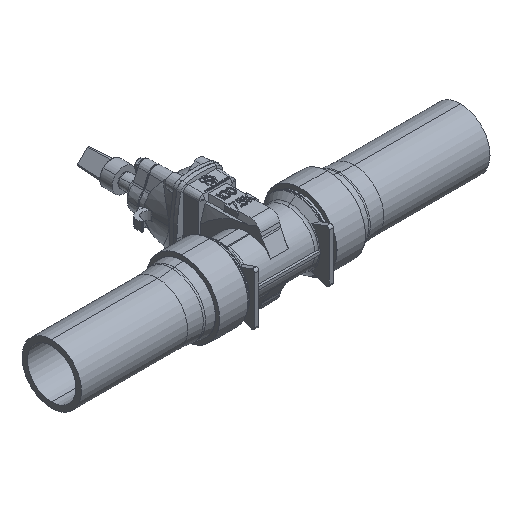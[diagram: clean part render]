
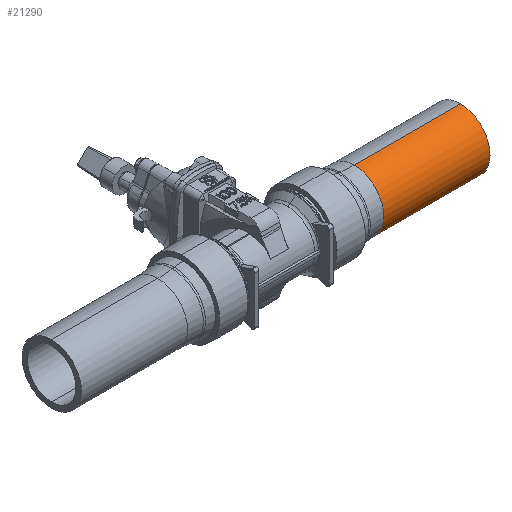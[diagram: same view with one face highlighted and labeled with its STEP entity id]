
A CAD part, isometric view. The second image highlights one B-rep face of the part: STEP entity #21290.
In plain terms, the highlighted cylindrical face has radius 62.5 mm (diameter 125 mm), a partial arc.
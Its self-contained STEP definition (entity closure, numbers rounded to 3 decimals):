
#515 = ORIENTED_EDGE ( 'NONE', *, *, #19718, .F. ) ;
#922 = DIRECTION ( 'NONE',  ( 1., 0., 0. ) ) ;
#2100 = CARTESIAN_POINT ( 'NONE',  ( 430., 0., -62.5 ) ) ;
#2733 = DIRECTION ( 'NONE',  ( -1., 0., 0. ) ) ;
#3325 = VECTOR ( 'NONE', #2733, 1000. ) ;
#3963 = DIRECTION ( 'NONE',  ( 0., 0., 1. ) ) ;
#4162 = CARTESIAN_POINT ( 'NONE',  ( 430., 0., 62.5 ) ) ;
#7115 = DIRECTION ( 'NONE',  ( -1., 0., 0. ) ) ;
#7524 = CARTESIAN_POINT ( 'NONE',  ( -180.997, 0., 0. ) ) ;
#8609 = AXIS2_PLACEMENT_3D ( 'NONE', #7524, #14730, #3963 ) ;
#8681 = CARTESIAN_POINT ( 'NONE',  ( -180.997, 0., -62.5 ) ) ;
#8992 = VERTEX_POINT ( 'NONE', #4162 ) ;
#9196 = ORIENTED_EDGE ( 'NONE', *, *, #23197, .F. ) ;
#9306 = AXIS2_PLACEMENT_3D ( 'NONE', #15629, #922, #13588 ) ;
#9676 = CYLINDRICAL_SURFACE ( 'NONE', #8609, 62.5 ) ;
#10517 = DIRECTION ( 'NONE',  ( 0., 0., 1. ) ) ;
#11415 = ORIENTED_EDGE ( 'NONE', *, *, #22241, .T. ) ;
#11505 = VERTEX_POINT ( 'NONE', #14757 ) ;
#13588 = DIRECTION ( 'NONE',  ( 0., 1., 0. ) ) ;
#13679 = CIRCLE ( 'NONE', #17133, 62.5 ) ;
#14311 = CIRCLE ( 'NONE', #9306, 62.5 ) ;
#14730 = DIRECTION ( 'NONE',  ( -1., 0., 0. ) ) ;
#14757 = CARTESIAN_POINT ( 'NONE',  ( 206.623, 0., 62.5 ) ) ;
#15520 = EDGE_LOOP ( 'NONE', ( #23405, #515, #11415, #9196 ) ) ;
#15629 = CARTESIAN_POINT ( 'NONE',  ( 430., 0., 0. ) ) ;
#16763 = CARTESIAN_POINT ( 'NONE',  ( 206.623, 0., -62.5 ) ) ;
#17133 = AXIS2_PLACEMENT_3D ( 'NONE', #21309, #19398, #10517 ) ;
#17136 = FACE_OUTER_BOUND ( 'NONE', #15520, .T. ) ;
#18146 = VECTOR ( 'NONE', #7115, 1000. ) ;
#19165 = VERTEX_POINT ( 'NONE', #16763 ) ;
#19398 = DIRECTION ( 'NONE',  ( -1., 0., 0. ) ) ;
#19575 = LINE ( 'NONE', #8681, #18146 ) ;
#19718 = EDGE_CURVE ( 'NONE', #8992, #22510, #14311, .T. ) ;
#20719 = EDGE_CURVE ( 'NONE', #22510, #19165, #19575, .T. ) ;
#21125 = LINE ( 'NONE', #23052, #3325 ) ;
#21290 = ADVANCED_FACE ( 'NONE', ( #17136 ), #9676, .T. ) ;
#21309 = CARTESIAN_POINT ( 'NONE',  ( 206.623, 0., 0. ) ) ;
#22241 = EDGE_CURVE ( 'NONE', #8992, #11505, #21125, .T. ) ;
#22510 = VERTEX_POINT ( 'NONE', #2100 ) ;
#23052 = CARTESIAN_POINT ( 'NONE',  ( -180.997, 0., 62.5 ) ) ;
#23197 = EDGE_CURVE ( 'NONE', #19165, #11505, #13679, .T. ) ;
#23405 = ORIENTED_EDGE ( 'NONE', *, *, #20719, .F. ) ;
